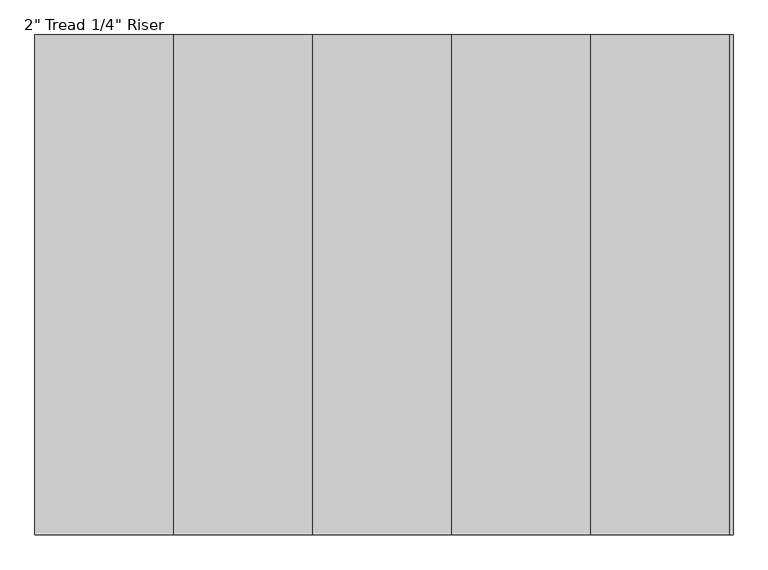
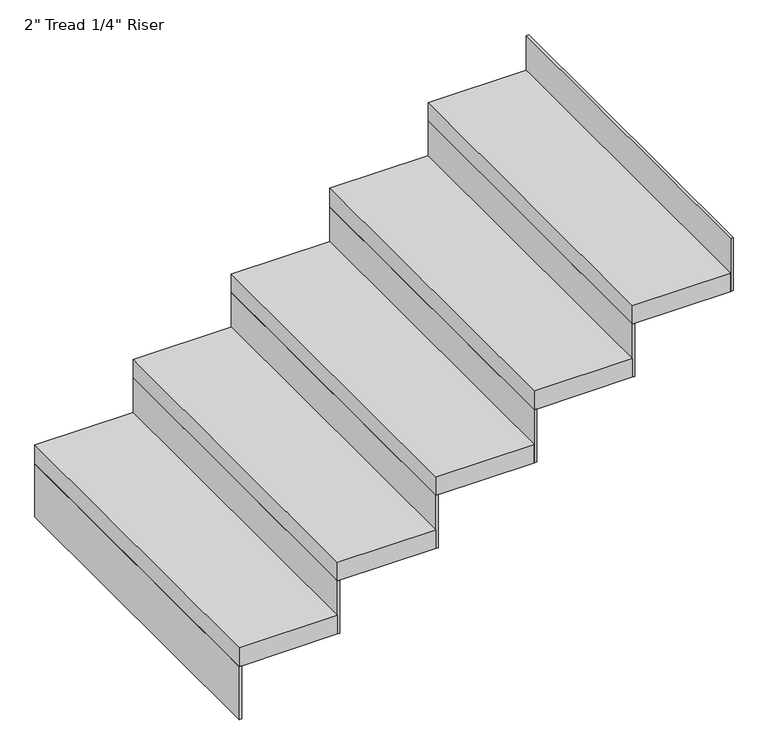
"""IFC4 building model written with IfcOpenShell, lengths in millimetres: stair flight geometry."""

import ifcopenshell
import ifcopenshell.guid

model = None  # the IFC model being written
_history = None  # IfcOwnerHistory: only IFC2X3 demands one
_inside = {}  # id of a spatial element -> (the spatial element, [elements in it])
_under = {}  # id of a project, library or spatial element -> (it, [spatial elements below it])
_declared = {}  # id of a project -> (the project, [libraries it declares])
_typed = {}  # id of a type object -> (the type object, [elements of that type])
_made_of = {}  # id of a material, layer set ... -> (it, [elements and type objects made of it])


def new_model(schema):
    """Start an empty IFC model of exactly this schema.

    Asked for "IFC4X3", IfcOpenShell would pick the latest addendum, in which some entities
    have other attributes; the version numbers below select the first issue.
    IFC2X3 requires an IfcOwnerHistory on every rooted entity: one is made here for all.
    """
    global model, _history
    if schema == "IFC4X3":
        model = ifcopenshell.file(schema_version=(4, 3, 0, 0))
    else:
        model = ifcopenshell.file(schema=schema)
    _inside.clear()
    _under.clear()
    _declared.clear()
    _typed.clear()
    _made_of.clear()
    _history = None
    if model.schema == "IFC2X3":
        org = make("IfcOrganization", Name="unknown")
        user = make(
            "IfcPersonAndOrganization",
            ThePerson=make("IfcPerson", FamilyName="unknown"),
            TheOrganization=org,
        )
        app = make(
            "IfcApplication",
            ApplicationDeveloper=org,
            Version="unknown",
            ApplicationFullName="unknown",
            ApplicationIdentifier="unknown",
        )
        _history = make(
            "IfcOwnerHistory",
            OwningUser=user,
            OwningApplication=app,
            ChangeAction="ADDED",
            CreationDate=0,
        )
    return model


def make(cls, **values):
    """One entity of the class cls with the attributes given. An attribute that is None is left unset."""
    return model.create_entity(
        cls, **{name: value for name, value in values.items() if value is not None}
    )


def rooted(cls, **values):
    """An entity with a GlobalId (a new one), such as an element, a storey or a relation."""
    return make(cls, GlobalId=ifcopenshell.guid.new(), OwnerHistory=_history, **values)


def si_unit(unit_type, name, prefix=None):
    """IfcSIUnit, for example si_unit("LENGTHUNIT", "METRE", prefix="MILLI")."""
    return make("IfcSIUnit", UnitType=unit_type, Prefix=prefix, Name=name)


def assignment(units):
    """IfcUnitAssignment: the units of a project."""
    return None if units is None else make("IfcUnitAssignment", Units=units)


def point(xyz):
    """IfcCartesianPoint."""
    return None if xyz is None else make("IfcCartesianPoint", Coordinates=xyz)


def direction(xyz):
    """IfcDirection."""
    return None if xyz is None else make("IfcDirection", DirectionRatios=xyz)


def frame(location, z_axis=None, x_axis=None):
    """IfcAxis2Placement3D, a coordinate frame: its origin and axes. An axis left out is left unset."""
    return make(
        "IfcAxis2Placement3D",
        Location=point(location),
        Axis=direction(z_axis),
        RefDirection=direction(x_axis),
    )


def origin():
    """The frame at (0, 0, 0) with its axes left unset."""
    return frame((0.0, 0.0, 0.0))


def place(relative_to, where):
    """IfcLocalPlacement: puts the frame where relative to a parent placement (None: the world)."""
    return make(
        "IfcLocalPlacement", PlacementRelTo=relative_to, RelativePlacement=where
    )


def context(
    kind, dimensions, precision=None, world=None, true_north=None, identifier=None
):
    """IfcGeometricRepresentationContext, for example the 3D "Model" context."""
    return make(
        "IfcGeometricRepresentationContext",
        ContextIdentifier=identifier,
        ContextType=kind,
        CoordinateSpaceDimension=dimensions,
        Precision=precision,
        WorldCoordinateSystem=world,
        TrueNorth=true_north,
    )


def project(units=None, contexts=None):
    """IfcProject with its units and contexts."""
    return rooted(
        "IfcProject",
        Name="project",
        RepresentationContexts=contexts,
        UnitsInContext=assignment(units),
    )


def spatial(cls, under=None, at=None, **own):
    """A site, building, storey or space (cls), placed at a placement, below another one or the project."""
    s = rooted(cls, ObjectPlacement=at, **own)
    if under is not None:
        _under.setdefault(under.id(), (under, []))[1].append(s)
    return s


def polyline(points):
    """IfcPolyline through the points."""
    return make("IfcPolyline", Points=[point(p) for p in points])


def outline(outer, holes=None, kind="AREA"):
    """IfcArbitraryClosedProfileDef: a profile drawn as a closed curve; with holes, ...WithVoids."""
    if holes is None:
        return make("IfcArbitraryClosedProfileDef", ProfileType=kind, OuterCurve=outer)
    return make(
        "IfcArbitraryProfileDefWithVoids",
        ProfileType=kind,
        OuterCurve=outer,
        InnerCurves=holes,
    )


def extrude(swept, where, along, depth):
    """IfcExtrudedAreaSolid: the profile swept, set in the frame where, extruded along a direction by depth."""
    return make(
        "IfcExtrudedAreaSolid",
        SweptArea=swept,
        Position=where,
        ExtrudedDirection=direction(along),
        Depth=depth,
    )


def shape(context_of_items, identifier, shape_type, items):
    """IfcShapeRepresentation: the items that make up one representation, for example the "Body"."""
    return make(
        "IfcShapeRepresentation",
        ContextOfItems=context_of_items,
        RepresentationIdentifier=identifier,
        RepresentationType=shape_type,
        Items=items,
    )


def source(mapping_origin, context_of_items, identifier, shape_type, items):
    """IfcRepresentationMap: a shape defined once, which mapped items show again and again."""
    return make(
        "IfcRepresentationMap",
        MappingOrigin=mapping_origin,
        MappedRepresentation=shape(context_of_items, identifier, shape_type, items),
    )


def transform(
    local_origin,
    x_axis=None,
    y_axis=None,
    z_axis=None,
    scale=None,
    scale2=None,
    scale3=None,
    uniform=True,
):
    """IfcCartesianTransformationOperator3D, or its non-uniform kind. x_axis, y_axis, z_axis: its Axis1, 2, 3."""
    if uniform:
        return make(
            "IfcCartesianTransformationOperator3D",
            Axis1=direction(x_axis),
            Axis2=direction(y_axis),
            LocalOrigin=point(local_origin),
            Scale=scale,
            Axis3=direction(z_axis),
        )
    return make(
        "IfcCartesianTransformationOperator3DnonUniform",
        Axis1=direction(x_axis),
        Axis2=direction(y_axis),
        LocalOrigin=point(local_origin),
        Scale=scale,
        Axis3=direction(z_axis),
        Scale2=scale2,
        Scale3=scale3,
    )


def mapped(mapping_source, mapping_target):
    """IfcMappedItem: shows the shape of a source again, moved by a transform."""
    return make(
        "IfcMappedItem", MappingSource=mapping_source, MappingTarget=mapping_target
    )


def made_of(thing, what):
    """Note that an element or type object is made of a material, layer set ...; save() writes the relation."""
    if what is not None:
        _made_of.setdefault(what.id(), (what, []))[1].append(thing)
    return thing


def element(
    cls,
    number,
    at=None,
    inside=None,
    cuts=None,
    type_object=None,
    material=None,
    context=None,
    identifier="Body",
    shape_type=None,
    held_by="IfcProductDefinitionShape",
    body=None,
    shapes=None,
    **own,
):
    """One element of the class cls, such as IfcWall. Its Tag is "e" and its number.

    at: its placement. inside: the storey or other place that contains it. cuts: it is an
    opening in that element (IfcRelVoidsElement). A single representation is given by context,
    identifier, shape_type and body (its items); several are given by shapes. held_by: the class
    of the entity that holds the representations. save() writes the other relations.
    """
    e = rooted(cls, Tag="e%d" % number, ObjectPlacement=at, **own)
    if body is not None:
        shapes = [shape(context, identifier, shape_type, body)]
    if shapes is not None:
        e.Representation = make(held_by, Representations=shapes)
    if inside is not None:
        _inside.setdefault(inside.id(), (inside, []))[1].append(e)
    if cuts is not None:
        rooted(
            "IfcRelVoidsElement", RelatingBuildingElement=cuts, RelatedOpeningElement=e
        )
    if type_object is not None:
        _typed.setdefault(type_object.id(), (type_object, []))[1].append(e)
    return made_of(e, material)


def aggregate(whole, parts):
    """IfcRelAggregates: a whole, such as a stair, and the parts it consists of."""
    return rooted("IfcRelAggregates", RelatingObject=whole, RelatedObjects=parts)


def save(model, path):
    """Write the relations noted so far, then the file.

    IfcRelAggregates (storeys below a building ...), IfcRelContainedInSpatialStructure (elements
    in a storey), IfcRelDefinesByType, IfcRelAssociatesMaterial and IfcRelDeclares: one each for
    every whole, place, type object, material and project.
    """
    for whole, parts in _under.values():
        aggregate(whole, parts)
    for where, things in _inside.values():
        rooted(
            "IfcRelContainedInSpatialStructure",
            RelatedElements=things,
            RelatingStructure=where,
        )
    for kind, things in _typed.values():
        rooted("IfcRelDefinesByType", RelatedObjects=things, RelatingType=kind)
    for what, things in _made_of.values():
        rooted("IfcRelAssociatesMaterial", RelatedObjects=things, RelatingMaterial=what)
    for by, libraries in _declared.values():
        rooted("IfcRelDeclares", RelatingContext=by, RelatedDefinitions=libraries)
    model.write(path)


def stair_flight_10330e09(model_context):
    return source(origin(), model_context, "Body", "SweptSolid", [
        extrude(outline(polyline([(89180.9548368, -2400.7855758), (89174.6048368, -2400.7855758), (89174.6048368, -1486.3855758), (89180.9548368, -1486.3855758), (89180.9548368, -2400.7855758)])), frame((0.0, 0.0, 2126.3428571), z_axis=(0.0, 0.0, 1.0), x_axis=(1.0, 0.0, 0.0)), (0.0, 0.0, 1.0), 145.1428571),
        extrude(outline(polyline([(89428.6048368, -1486.3855758), (89428.6048368, -2400.7855758), (89174.6048368, -2400.7855758), (89174.6048368, -1486.3855758), (89428.6048368, -1486.3855758)])), frame((0.0, 0.0, 2271.4857143), z_axis=(0.0, 0.0, 1.0), x_axis=(1.0, 0.0, 0.0)), (0.0, 0.0, 1.0), 50.8),
        extrude(outline(polyline([(89434.9548368, -2400.7855758), (89428.6048368, -2400.7855758), (89428.6048368, -1486.3855758), (89434.9548368, -1486.3855758), (89434.9548368, -2400.7855758)])), frame((0.0, 0.0, 2271.4857143), z_axis=(0.0, 0.0, 1.0), x_axis=(1.0, 0.0, 0.0)), (0.0, 0.0, 1.0), 145.1428571),
        extrude(outline(polyline([(89682.6048368, -1486.3855758), (89682.6048368, -2400.7855758), (89428.6048368, -2400.7855758), (89428.6048368, -1486.3855758), (89682.6048368, -1486.3855758)])), frame((0.0, 0.0, 2416.6285714), z_axis=(0.0, 0.0, 1.0), x_axis=(1.0, 0.0, 0.0)), (0.0, 0.0, 1.0), 50.8),
        extrude(outline(polyline([(89688.9548368, -2400.7855758), (89682.6048368, -2400.7855758), (89682.6048368, -1486.3855758), (89688.9548368, -1486.3855758), (89688.9548368, -2400.7855758)])), frame((0.0, 0.0, 2416.6285714), z_axis=(0.0, 0.0, 1.0), x_axis=(1.0, 0.0, 0.0)), (0.0, 0.0, 1.0), 145.1428571),
        extrude(outline(polyline([(89936.6048368, -1486.3855758), (89936.6048368, -2400.7855758), (89682.6048368, -2400.7855758), (89682.6048368, -1486.3855758), (89936.6048368, -1486.3855758)])), frame((0.0, 0.0, 2561.7714286), z_axis=(0.0, 0.0, 1.0), x_axis=(1.0, 0.0, 0.0)), (0.0, 0.0, 1.0), 50.8),
        extrude(outline(polyline([(89942.9548368, -2400.7855758), (89936.6048368, -2400.7855758), (89936.6048368, -1486.3855758), (89942.9548368, -1486.3855758), (89942.9548368, -2400.7855758)])), frame((0.0, 0.0, 2561.7714286), z_axis=(0.0, 0.0, 1.0), x_axis=(1.0, 0.0, 0.0)), (0.0, 0.0, 1.0), 145.1428571),
        extrude(outline(polyline([(90190.6048368, -1486.3855758), (90190.6048368, -2400.7855758), (89936.6048368, -2400.7855758), (89936.6048368, -1486.3855758), (90190.6048368, -1486.3855758)])), frame((0.0, 0.0, 2706.9142857), z_axis=(0.0, 0.0, 1.0), x_axis=(1.0, 0.0, 0.0)), (0.0, 0.0, 1.0), 50.8),
        extrude(outline(polyline([(90196.9548368, -2400.7855758), (90190.6048368, -2400.7855758), (90190.6048368, -1486.3855758), (90196.9548368, -1486.3855758), (90196.9548368, -2400.7855758)])), frame((0.0, 0.0, 2706.9142857), z_axis=(0.0, 0.0, 1.0), x_axis=(1.0, 0.0, 0.0)), (0.0, 0.0, 1.0), 145.1428571),
        extrude(outline(polyline([(90450.9548368, -2400.7855758), (90444.6048368, -2400.7855758), (90444.6048368, -1486.3855758), (90450.9548368, -1486.3855758), (90450.9548368, -2400.7855758)])), frame((0.0, 0.0, 2852.0571429), z_axis=(0.0, 0.0, 1.0), x_axis=(1.0, 0.0, 0.0)), (0.0, 0.0, 1.0), 145.1428571),
        extrude(outline(polyline([(90444.6048368, -1486.3855758), (90444.6048368, -2400.7855758), (90190.6048368, -2400.7855758), (90190.6048368, -1486.3855758), (90444.6048368, -1486.3855758)])), frame((0.0, 0.0, 2852.0571429), z_axis=(0.0, 0.0, 1.0), x_axis=(1.0, 0.0, 0.0)), (0.0, 0.0, 1.0), 50.8),
    ])


if __name__ == "__main__":
    model = new_model("IFC4")
    model_context = context("Model", 3, world=origin())
    ifc_project = project(units=[si_unit("LENGTHUNIT", "METRE", prefix="MILLI")], contexts=[model_context])
    site = spatial("IfcSite", under=ifc_project)
    building = spatial("IfcBuilding", under=site)
    placement = place(None, origin())
    stair_flight_shape = stair_flight_10330e09(model_context)
    element("IfcStairFlight", 1, ObjectType="2\" Tread 1/4\" Riser", at=placement, inside=building, context=model_context, shape_type="MappedRepresentation", body=[
        mapped(stair_flight_shape, transform((0.0, 0.0, 0.0), x_axis=(1.0, 0.0, 0.0), y_axis=(0.0, 1.0, 0.0), z_axis=(0.0, 0.0, 1.0))),
    ])
    save(model, "model.ifc")
